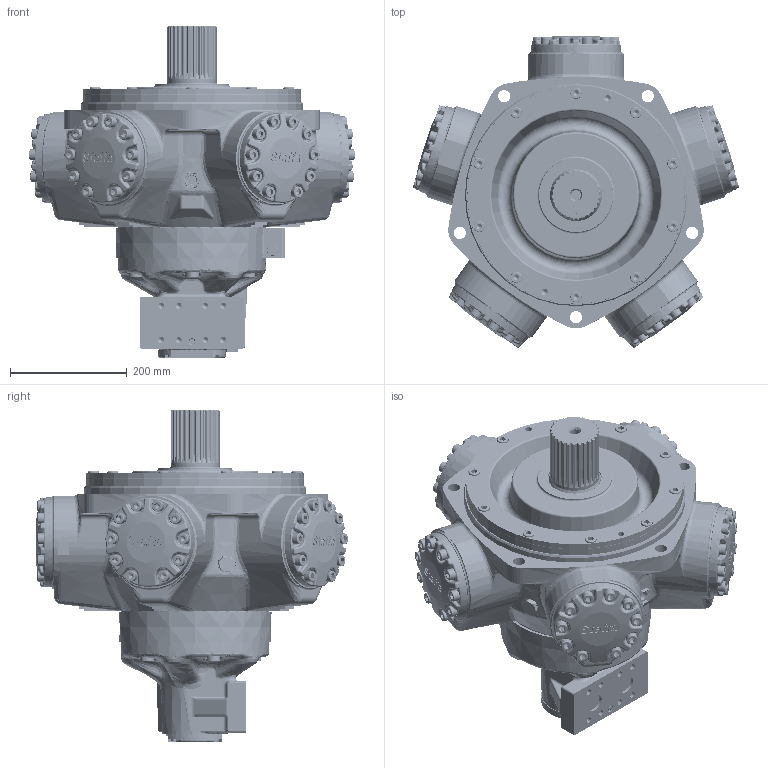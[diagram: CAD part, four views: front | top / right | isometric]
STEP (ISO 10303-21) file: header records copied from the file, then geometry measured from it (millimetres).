
FILE_DESCRIPTION(/* description */ (''),/* implementation_level */ '2;1');
FILE_NAME(/* name */ 'HMC 125_Z3_SFM3_CS_72.stp',/* time_stamp */ '2025-04-28T09:30:54+01:00',/* author */ ('ccallanga'),/* organization */ (''),/* preprocessor_version */ 'ST-DEVELOPER v20',/* originating_system */ 'Autodesk Inventor 2024',/* authorisation */ '');
FILE_SCHEMA (('AUTOMOTIVE_DESIGN { 1 0 10303 214 3 1 1 }'));
Products named in the file (1): 017750 HMC125 WEBSITE ASSEMBLY_Simplify_1
Bounding box: 560.12 x 535.2 x 569.37 mm (x, y, z)
Volume: 41255828.5 mm3; surface area: 1116101.9 mm2
Topology: 1 solids, 1 shells, 5118 faces, 12515 edges, 7446 vertices
Faces by surface type: bspline 1872, plane 1341, cylinder 1129, torus 425, cone 226, sphere 125
Full cylindrical faces by diameter (mm): 2.2 x4, 4 x1, 4.134 x4, 5.5 x4, 6.5 x4, 7 x4, 9.4 x6, 10.25 x8, 11.328 x4, 11.913 x4, 12 x6, 12.7 x4, 16.51 x1, 17.323 x1, 19 x1, 19.05 x60, 20.637 x60, 21 x5, 23.825 x5, 25 x1, 25.4 x5, 26.92 x2, 28.75 x1, 32 x2, 38.1 x3, 68.58 x1, 84.4 x1, 88.837 x1, 92.964 x1, 127 x1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
Entity records: 230662 total; most frequent: CARTESIAN_POINT 119741, ORIENTED_EDGE 24530, DIRECTION 17886, EDGE_CURVE 12265, VERTEX_POINT 7446, AXIS2_PLACEMENT_3D 7047, EDGE_LOOP 5425, STYLED_ITEM 5119
